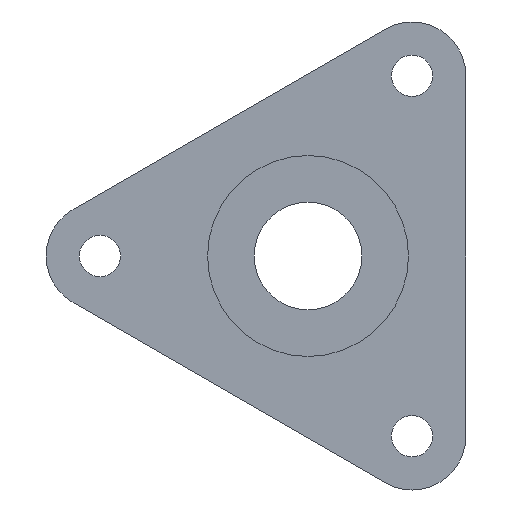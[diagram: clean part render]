
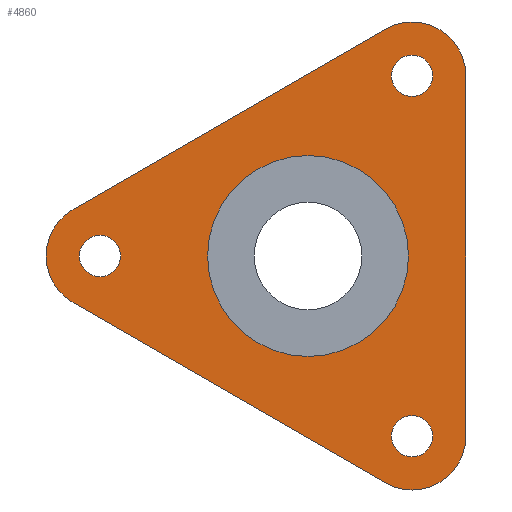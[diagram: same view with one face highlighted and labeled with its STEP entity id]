
A CAD part, left-side view. The second image highlights one B-rep face of the part: STEP entity #4860.
In plain terms, the highlighted planar face has unit normal (-1, 0, 0).
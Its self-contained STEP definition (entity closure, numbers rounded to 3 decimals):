
#200=CARTESIAN_POINT('',(-13.3,65.5,-12.99));
#210=VERTEX_POINT('',#200);
#240=CARTESIAN_POINT('',(-13.3,0.,-50.807));
#250=DIRECTION('',(0.,-0.866,-0.5));
#260=VECTOR('',#250,1.);
#270=LINE('',#240,#260);
#280=CARTESIAN_POINT('',(-13.3,-21.5,-63.22));
#290=VERTEX_POINT('',#280);
#300=EDGE_CURVE('',#210,#290,#270,.T.);
#560=CARTESIAN_POINT('',(-13.3,-29.,44.479));
#570=VERTEX_POINT('',#560);
#600=CARTESIAN_POINT('',(-13.3,-29.,50.229));
#610=DIRECTION('',(-1.,0.,0.));
#620=DIRECTION('',(0.,0.,-1.));
#630=AXIS2_PLACEMENT_3D('',#600,#610,#620);
#640=CIRCLE('',#630,5.75);
#650=CARTESIAN_POINT('',(-13.3,-29.,55.979));
#660=VERTEX_POINT('',#650);
#670=EDGE_CURVE('',#660,#570,#640,.T.);
#1340=CARTESIAN_POINT('',(-13.3,58.,5.75));
#1350=VERTEX_POINT('',#1340);
#1510=CARTESIAN_POINT('',(-13.3,58.,-5.75));
#1520=VERTEX_POINT('',#1510);
#1550=CARTESIAN_POINT('',(-13.3,58.,0.));
#1560=DIRECTION('',(-1.,0.,0.));
#1570=DIRECTION('',(0.,0.,-1.));
#1580=AXIS2_PLACEMENT_3D('',#1550,#1560,#1570);
#1590=CIRCLE('',#1580,5.75);
#1600=EDGE_CURVE('',#1350,#1520,#1590,.T.);
#2220=CARTESIAN_POINT('',(-13.3,-29.,-55.979));
#2230=VERTEX_POINT('',#2220);
#2260=CARTESIAN_POINT('',(-13.3,-29.,-50.229));
#2270=DIRECTION('',(-1.,0.,0.));
#2280=DIRECTION('',(0.,0.,-1.));
#2290=AXIS2_PLACEMENT_3D('',#2260,#2270,#2280);
#2300=CIRCLE('',#2290,5.75);
#2310=CARTESIAN_POINT('',(-13.3,-29.,-44.479));
#2320=VERTEX_POINT('',#2310);
#2330=EDGE_CURVE('',#2320,#2230,#2300,.T.);
#3220=CARTESIAN_POINT('',(-13.3,-44.,-50.229));
#3230=VERTEX_POINT('',#3220);
#3260=CARTESIAN_POINT('',(-13.3,-44.,0.));
#3270=DIRECTION('',(0.,0.,1.));
#3280=VECTOR('',#3270,1.);
#3290=LINE('',#3260,#3280);
#3300=CARTESIAN_POINT('',(-13.3,-44.,50.229));
#3310=VERTEX_POINT('',#3300);
#3320=EDGE_CURVE('',#3230,#3310,#3290,.T.);
#3550=CARTESIAN_POINT('',(-13.3,-28.002,0.))
;
#3560=VERTEX_POINT('',#3550);
#3720=CARTESIAN_POINT('',(-13.3,28.002,0.));
#3730=VERTEX_POINT('',#3720);
#3760=CARTESIAN_POINT('',(-13.3,0.,0.));
#3770=DIRECTION('',(-1.,0.,0.));
#3780=DIRECTION('',(0.,1.,0.));
#3790=AXIS2_PLACEMENT_3D('',#3760,#3770,#3780);
#3800=CIRCLE('',#3790,28.002);
#3810=EDGE_CURVE('',#3560,#3730,#3800,.T.);
#4180=CARTESIAN_POINT('',(-13.3,-21.5,63.22));
#4190=VERTEX_POINT('',#4180);
#4240=CARTESIAN_POINT('',(-13.3,-29.,50.229));
#4250=DIRECTION('',(-1.,0.,0.));
#4260=DIRECTION('',(0.,0.5,0.866));
#4270=AXIS2_PLACEMENT_3D('',#4240,#4250,#4260);
#4280=CIRCLE('',#4270,15.);
#4290=EDGE_CURVE('',#3310,#4190,#4280,.T.);
#4340=CARTESIAN_POINT('',(-13.3,104.732,0.));
#4350=DIRECTION('',(-1.,0.,0.));
#4360=DIRECTION('',(0.,1.,0.));
#4370=AXIS2_PLACEMENT_3D('',#4340,#4350,#4360);
#4380=PLANE('',#4370);
#4390=CARTESIAN_POINT('',(-13.3,0.,50.807));
#4400=DIRECTION('',(0.,0.866,-0.5));
#4410=VECTOR('',#4400,1.);
#4420=LINE('',#4390,#4410);
#4430=CARTESIAN_POINT('',(-13.3,65.5,12.99));
#4440=VERTEX_POINT('',#4430);
#4450=EDGE_CURVE('',#4190,#4440,#4420,.T.);
#4460=ORIENTED_EDGE('',*,*,#4450,.T.);
#4470=ORIENTED_EDGE('',*,*,#4290,.T.);
#4480=ORIENTED_EDGE('',*,*,#3320,.T.);
#4490=CARTESIAN_POINT('',(-13.3,-29.,-50.229));
#4500=DIRECTION('',(-1.,0.,0.));
#4510=DIRECTION('',(0.,-1.,0.));
#4520=AXIS2_PLACEMENT_3D('',#4490,#4500,#4510);
#4530=CIRCLE('',#4520,15.);
#4540=EDGE_CURVE('',#290,#3230,#4530,.T.);
#4550=ORIENTED_EDGE('',*,*,#4540,.T.);
#4560=ORIENTED_EDGE('',*,*,#300,.T.);
#4570=CARTESIAN_POINT('',(-13.3,58.,0.));
#4580=DIRECTION('',(-1.,0.,0.));
#4590=DIRECTION('',(0.,0.5,-0.866));
#4600=AXIS2_PLACEMENT_3D('',#4570,#4580,#4590);
#4610=CIRCLE('',#4600,15.);
#4620=EDGE_CURVE('',#4440,#210,#4610,.T.);
#4630=ORIENTED_EDGE('',*,*,#4620,.T.);
#4640=EDGE_LOOP('',(#4630,#4560,#4550,#4480,#4470,#4460));
#4650=FACE_OUTER_BOUND('',#4640,.T.);
#4660=EDGE_CURVE('',#2230,#2320,#2300,.T.);
#4670=ORIENTED_EDGE('',*,*,#4660,.F.);
#4680=ORIENTED_EDGE('',*,*,#2330,.F.);
#4690=EDGE_LOOP('',(#4680,#4670));
#4700=FACE_BOUND('',#4690,.T.);
#4710=EDGE_CURVE('',#3730,#3560,#3800,.T.);
#4720=ORIENTED_EDGE('',*,*,#4710,.F.);
#4730=ORIENTED_EDGE('',*,*,#3810,.F.);
#4740=EDGE_LOOP('',(#4730,#4720));
#4750=FACE_BOUND('',#4740,.T.);
#4760=EDGE_CURVE('',#1520,#1350,#1590,.T.);
#4770=ORIENTED_EDGE('',*,*,#4760,.F.);
#4780=ORIENTED_EDGE('',*,*,#1600,.F.);
#4790=EDGE_LOOP('',(#4780,#4770));
#4800=FACE_BOUND('',#4790,.T.);
#4810=EDGE_CURVE('',#570,#660,#640,.T.);
#4820=ORIENTED_EDGE('',*,*,#4810,.F.);
#4830=ORIENTED_EDGE('',*,*,#670,.F.);
#4840=EDGE_LOOP('',(#4830,#4820));
#4850=FACE_BOUND('',#4840,.T.);
#4860=ADVANCED_FACE('',(#4650,#4700,#4750,#4800,#4850),#4380,.T.);
